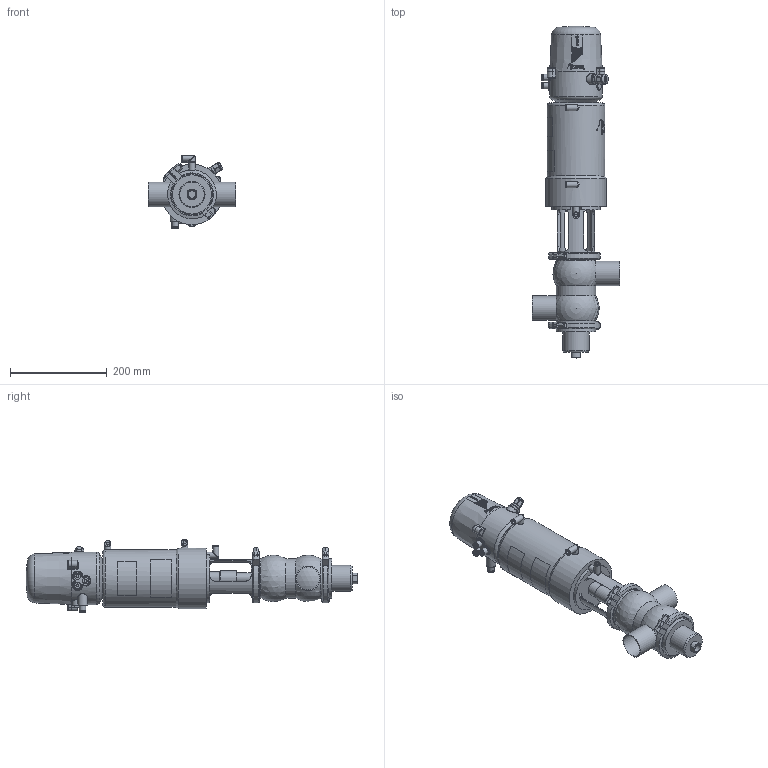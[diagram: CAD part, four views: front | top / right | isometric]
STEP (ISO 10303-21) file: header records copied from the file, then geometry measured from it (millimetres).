
FILE_DESCRIPTION (( 'STEP AP214' ), '1' );
FILE_NAME ('INNOVA P DC-180 W OD 2 & C-TOP S_10.250.16.0019.STEP', '2024-08-08T12:23:08', ( '' ), ( '' ), 'SwSTEP 2.0', 'SolidWorks 2023', '' );
FILE_SCHEMA (( 'AUTOMOTIVE_DESIGN' ));
Length unit declared in the file: millimetre
Products named in the file (7): 10.240.15.0001_DN 050; 10.250.15.0001_OD 2"; 10.251.15.0011_OD 2"; 10.426.15.0001_C-TOP S - 3 EV; 10.250.15.0002_Type P T1; 10.250.15.0003_DN 2"; INNOVA P DC-180 W OD 2 & C-TOP S_10.250.16.0019
Assembly tree (7 placements, depth 2):
  INNOVA P DC-180 W OD 2 & C-TOP S_10.250.16.0019
    10.250.15.0001_OD 2"
    10.250.15.0002_Type P T1
    10.426.15.0001_C-TOP S - 3 EV
    10.251.15.0011_OD 2"
    10.240.15.0001_DN 050  x2
    10.250.15.0003_DN 2"
Bounding box: 180 x 686.5 x 152 mm (x, y, z)
Volume: 5224739.6 mm3; surface area: 390975.8 mm2
Topology: 7 solids, 7 shells, 1203 faces, 2896 edges, 1923 vertices
Faces by surface type: plane 413, cylinder 383, cone 203, bspline 163, torus 33, sphere 8
Full cylindrical faces by diameter (mm): 0.371 x17, 0.512 x16, 0.658 x16, 0.795 x16, 0.94 x15, 1.098 x15, 1.241 x13, 1.382 x13, 1.523 x11, 1.669 x10, 2.201 x1, 4.2 x2, 5 x1, 5.5 x2, 6 x4, 6.15 x3, 8 x5, 10 x1, 10.5 x3, 11 x4, 12.5 x9, 13 x6, 13.5 x2, 16 x1, 17 x3, 20 x2, 22 x2, 23 x1, 28 x1, 31.5 x1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
Entity records: 59019 total; most frequent: CARTESIAN_POINT 27689, ORIENTED_EDGE 4612, DIRECTION 3753, EDGE_CURVE 2306, VERTEX_POINT 1642, EDGE_LOOP 1620, AXIS2_PLACEMENT_3D 1543, FACE_OUTER_BOUND 1370
